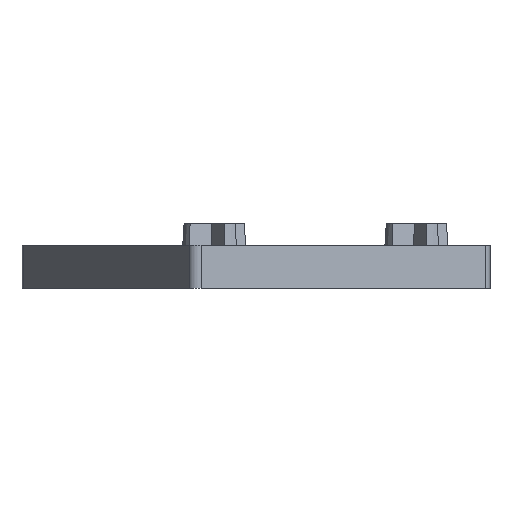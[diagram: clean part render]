
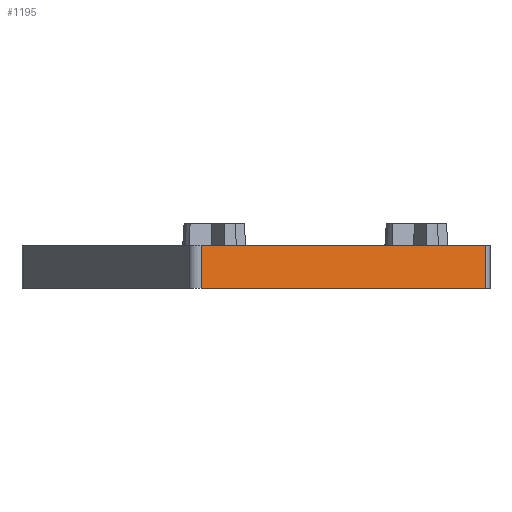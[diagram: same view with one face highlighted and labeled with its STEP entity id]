
A CAD part, left-side view. The second image highlights one B-rep face of the part: STEP entity #1195.
In plain terms, the highlighted planar face has unit normal (-0.866, -0.5, 0).
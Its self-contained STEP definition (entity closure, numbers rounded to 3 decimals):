
#9 = DIRECTION ( 'NONE',  ( 0.5, -0.866, 0. ) ) ;
#23 = DIRECTION ( 'NONE',  ( 0.5, -0.866, 0. ) ) ;
#38 = FACE_OUTER_BOUND ( 'NONE', #2278, .T. ) ;
#107 = EDGE_CURVE ( 'NONE', #422, #395, #2390, .T. ) ;
#326 = DIRECTION ( 'NONE',  ( 0., 0., 1. ) ) ;
#337 = CARTESIAN_POINT ( 'NONE',  ( -15.141, -7.587, 0. ) ) ;
#395 = VERTEX_POINT ( 'NONE', #2002 ) ;
#402 = ORIENTED_EDGE ( 'NONE', *, *, #2350, .T. ) ;
#408 = DIRECTION ( 'NONE',  ( -0.866, -0.5, 0. ) ) ;
#422 = VERTEX_POINT ( 'NONE', #1263 ) ;
#476 = EDGE_CURVE ( 'NONE', #395, #722, #1036, .T. ) ;
#481 = CARTESIAN_POINT ( 'NONE',  ( -34.141, 25.322, 0. ) ) ;
#496 = AXIS2_PLACEMENT_3D ( 'NONE', #1536, #408, #23 ) ;
#717 = DIRECTION ( 'NONE',  ( 0.5, -0.866, 0. ) ) ;
#722 = VERTEX_POINT ( 'NONE', #1816 ) ;
#735 = VECTOR ( 'NONE', #2009, 1000. ) ;
#803 = EDGE_CURVE ( 'NONE', #1585, #722, #1699, .T. ) ;
#889 = VECTOR ( 'NONE', #326, 1000. ) ;
#915 = ORIENTED_EDGE ( 'NONE', *, *, #803, .F. ) ;
#964 = PLANE ( 'NONE',  #496 ) ;
#1036 = LINE ( 'NONE', #337, #889 ) ;
#1195 = ADVANCED_FACE ( 'NONE', ( #38 ), #964, .T. ) ;
#1263 = CARTESIAN_POINT ( 'NONE',  ( -34.141, 25.322, 0. ) ) ;
#1396 = ORIENTED_EDGE ( 'NONE', *, *, #476, .T. ) ;
#1452 = CARTESIAN_POINT ( 'NONE',  ( -34.641, 26.188, 0. ) ) ;
#1456 = VECTOR ( 'NONE', #9, 1000. ) ;
#1536 = CARTESIAN_POINT ( 'NONE',  ( -34.641, 26.188, 0. ) ) ;
#1585 = VERTEX_POINT ( 'NONE', #2248 ) ;
#1699 = LINE ( 'NONE', #1708, #1456 ) ;
#1708 = CARTESIAN_POINT ( 'NONE',  ( -34.641, 26.188, 5. ) ) ;
#1816 = CARTESIAN_POINT ( 'NONE',  ( -15.141, -7.587, 5. ) ) ;
#1996 = LINE ( 'NONE', #481, #735 ) ;
#2002 = CARTESIAN_POINT ( 'NONE',  ( -15.141, -7.587, 0. ) ) ;
#2009 = DIRECTION ( 'NONE',  ( 0., 0., -1. ) ) ;
#2120 = VECTOR ( 'NONE', #717, 1000. ) ;
#2238 = ORIENTED_EDGE ( 'NONE', *, *, #107, .T. ) ;
#2248 = CARTESIAN_POINT ( 'NONE',  ( -34.141, 25.322, 5. ) ) ;
#2278 = EDGE_LOOP ( 'NONE', ( #2238, #1396, #915, #402 ) ) ;
#2350 = EDGE_CURVE ( 'NONE', #1585, #422, #1996, .T. ) ;
#2390 = LINE ( 'NONE', #1452, #2120 ) ;
